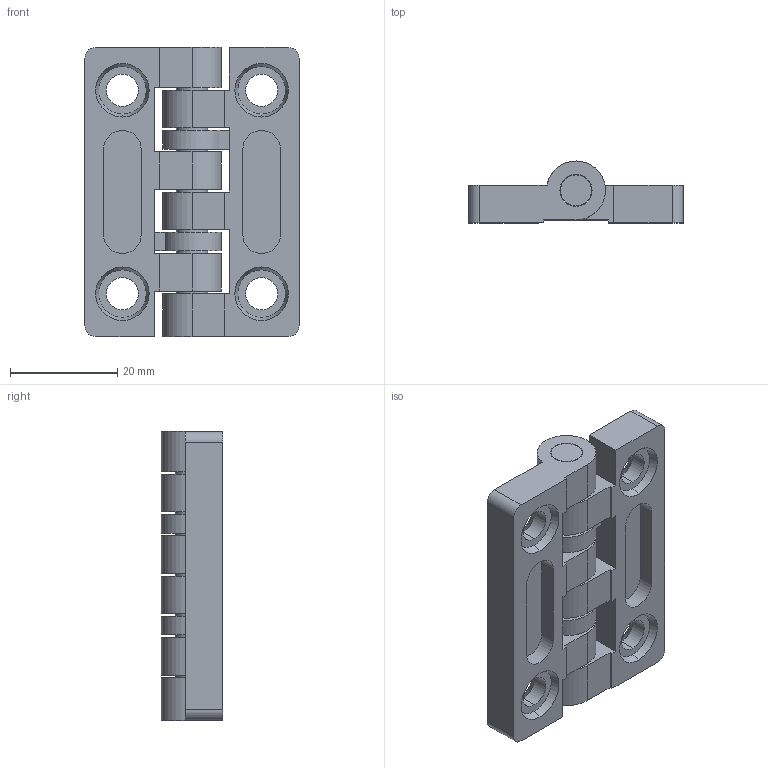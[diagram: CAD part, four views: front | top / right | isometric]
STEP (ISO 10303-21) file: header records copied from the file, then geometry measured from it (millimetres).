
FILE_DESCRIPTION (( 'STEP AP203' ), '1' );
FILE_NAME ('XG11-032.STEP', '2025-05-15T07:16:16', ( '微软用户' ), ( '微软中国' ), 'SwSTEP 2.0', 'SolidWorks 2024', '' );
FILE_SCHEMA (( 'CONFIG_CONTROL_DESIGN' ));
Length unit declared in the file: millimetre
Products named in the file (1): XG11-032
Bounding box: 40 x 11.5 x 54 mm (x, y, z)
Volume: 13112.3 mm3; surface area: 9927.4 mm2
Topology: 5 solids, 5 shells, 120 faces, 304 edges, 200 vertices
Faces by surface type: plane 60, cylinder 44, cone 16
Entity records: 3753 total; most frequent: DIRECTION 658, CARTESIAN_POINT 625, ORIENTED_EDGE 608, EDGE_CURVE 304, AXIS2_PLACEMENT_3D 233, VERTEX_POINT 200, VECTOR 192, LINE 192
